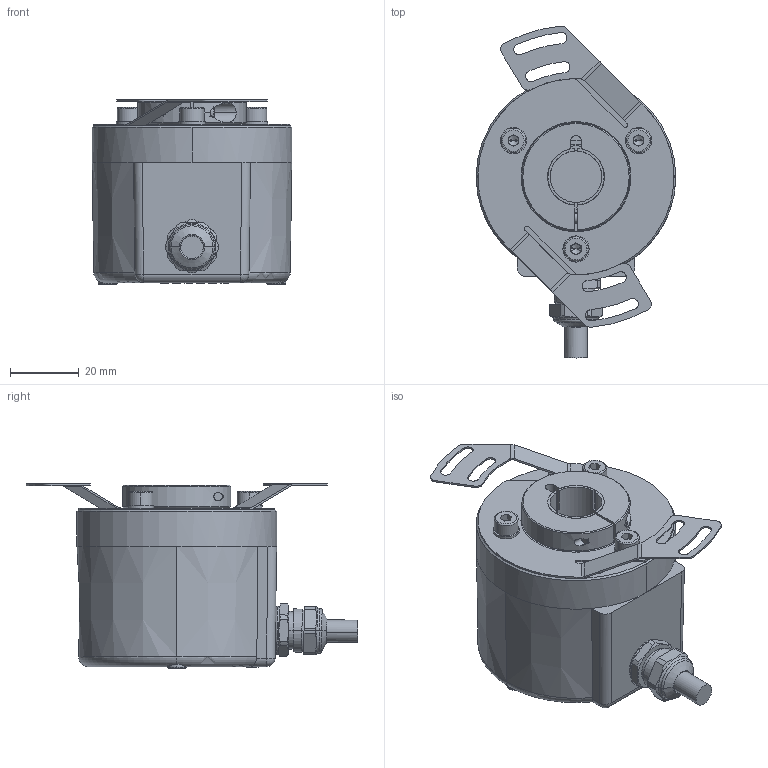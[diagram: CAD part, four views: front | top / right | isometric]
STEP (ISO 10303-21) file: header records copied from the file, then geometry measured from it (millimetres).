
FILE_DESCRIPTION (( 'STEP AP203' ), '1' );
FILE_NAME ('E58HM-SSI-482##.STEP', '2024-10-02T06:50:54', ( '' ), ( '' ), 'SwSTEP 2.0', 'SolidWorks 2023', '' );
FILE_SCHEMA (( 'CONFIG_CONTROL_DESIGN' ));
Length unit declared in the file: millimetre
Products named in the file (1): E58HM-SSI-482##
Bounding box: 58 x 96.39 x 53.5 mm (x, y, z)
Volume: 124697 mm3; surface area: 26449.6 mm2
Topology: 12 solids, 14 shells, 571 faces, 1372 edges, 839 vertices
Faces by surface type: plane 278, cylinder 174, cone 68, torus 47, bspline 2, sphere 2
Entity records: 16899 total; most frequent: CARTESIAN_POINT 3413, DIRECTION 2910, ORIENTED_EDGE 2692, EDGE_CURVE 1346, AXIS2_PLACEMENT_3D 1072, VERTEX_POINT 839, LINE 766, VECTOR 766
